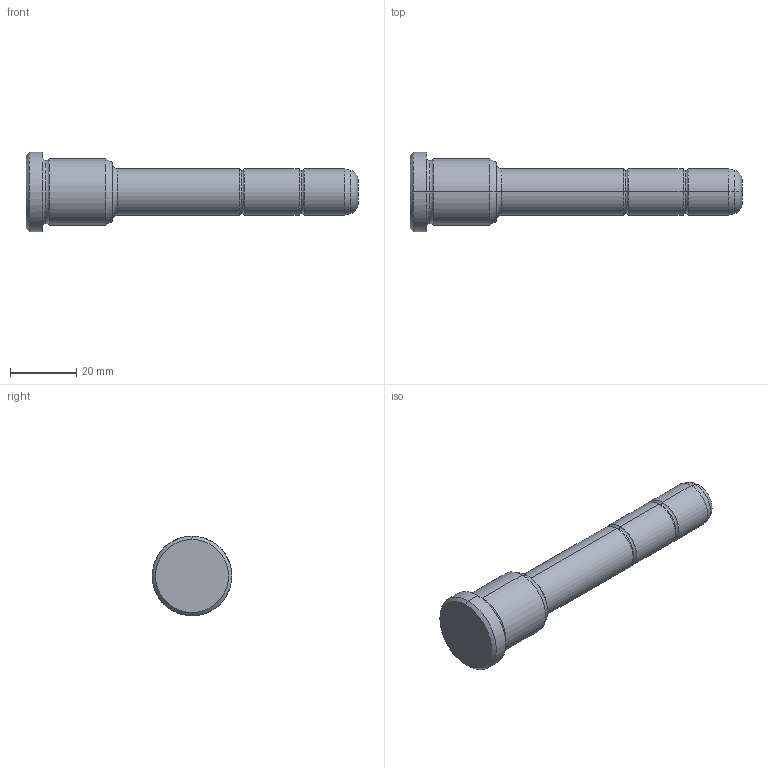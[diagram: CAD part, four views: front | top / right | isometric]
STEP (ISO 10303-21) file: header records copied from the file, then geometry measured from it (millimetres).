
FILE_DESCRIPTION(('CATIA V5 STEP Exchange'),'2;1');
FILE_NAME('C:\Users\Utente\Desktop\IO LAVORO\3D X SITO CF\X SITO\PLASTICA\351\351-14X26X100.stp','2021-08-18T09:53:51+00:00',('none'),('none'),'CATIA Version 5 Release 20 GA (IN-10)','CATIA V5 STEP AP203','none');
FILE_SCHEMA(('CONFIG_CONTROL_DESIGN'));
Length unit declared in the file: millimetre
Products named in the file (1): 351-14X26X100
Bounding box: 100 x 24 x 24 mm (x, y, z)
Volume: 19950.1 mm3; surface area: 5692.9 mm2
Topology: 1 solids, 1 shells, 36 faces, 102 edges, 70 vertices
Faces by surface type: torus 16, cylinder 10, cone 6, plane 4
Entity records: 1292 total; most frequent: CARTESIAN_POINT 321, ORIENTED_EDGE 204, DIRECTION 166, AXIS2_PLACEMENT_3D 115, EDGE_CURVE 102, CIRCLE 78, VERTEX_POINT 70, EDGE_LOOP 38
